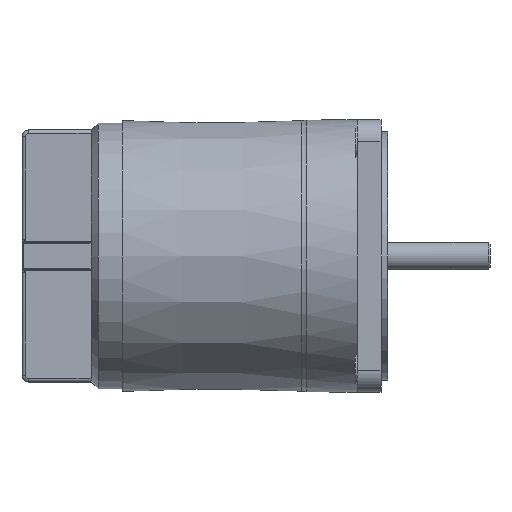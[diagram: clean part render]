
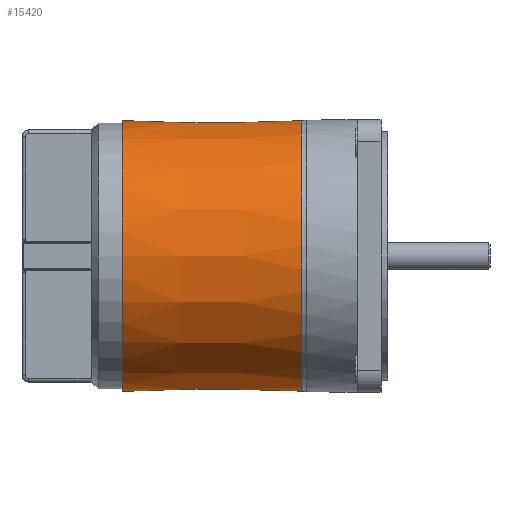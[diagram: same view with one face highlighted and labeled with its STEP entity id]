
A CAD part, front view. The second image highlights one B-rep face of the part: STEP entity #15420.
In plain terms, the highlighted conical face has half-angle 0.073 degrees and reference radius 39.784 mm.
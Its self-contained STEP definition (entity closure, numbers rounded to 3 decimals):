
#23=(
BOUNDED_CURVE()
B_SPLINE_CURVE(2,(#25382,#25383,#25384),.UNSPECIFIED.,.F.,.F.)
B_SPLINE_CURVE_WITH_KNOTS((3,3),(0.114,3.908),
 .UNSPECIFIED.)
CURVE()
GEOMETRIC_REPRESENTATION_ITEM()
RATIONAL_B_SPLINE_CURVE((1.,1.,1.))
REPRESENTATION_ITEM('')
);
#93=B_SPLINE_CURVE_WITH_KNOTS('',3,(#25319,#25320,#25321,#25322,#25323,
#25324,#25325,#25326,#25327,#25328,#25329,#25330),.UNSPECIFIED.,.F.,.F.,
(4,2,2,2,2,4),(-0.001,0.,0.027,0.048,
0.073,0.103),.UNSPECIFIED.);
#106=B_SPLINE_CURVE_WITH_KNOTS('',3,(#25554,#25555,#25556,#25557),
 .UNSPECIFIED.,.F.,.F.,(4,4),(5.75,5.8),
 .UNSPECIFIED.);
#107=B_SPLINE_CURVE_WITH_KNOTS('',3,(#25559,#25560,#25561,#25562),
 .UNSPECIFIED.,.F.,.F.,(4,4),(-5.75,-1.842),
 .UNSPECIFIED.);
#333=FACE_BOUND('',#2989,.T.);
#382=CONICAL_SURFACE('',#16763,39.784,0.073);
#1224=CIRCLE('',#16737,39.767);
#1234=CIRCLE('',#16759,39.817);
#1235=CIRCLE('',#16761,39.817);
#1237=CIRCLE('',#16764,39.75);
#2031=FACE_OUTER_BOUND('',#2988,.T.);
#2988=EDGE_LOOP('',(#12403,#12404,#12405,#12406,#12407,#12408,#12409));
#2989=EDGE_LOOP('',(#12410));
#6813=VERTEX_POINT('',#25317);
#6814=VERTEX_POINT('',#25318);
#6815=VERTEX_POINT('',#25343);
#6821=VERTEX_POINT('',#25375);
#6833=VERTEX_POINT('',#25553);
#6834=VERTEX_POINT('',#25558);
#6841=VERTEX_POINT('',#25665);
#6843=VERTEX_POINT('',#25680);
#8708=EDGE_CURVE('',#6813,#6814,#93,.T.);
#8711=EDGE_CURVE('',#6813,#6815,#1224,.T.);
#8720=EDGE_CURVE('',#6814,#6821,#23,.T.);
#8739=EDGE_CURVE('',#6833,#6815,#106,.T.);
#8740=EDGE_CURVE('',#6833,#6834,#107,.T.);
#8755=EDGE_CURVE('',#6834,#6841,#1234,.T.);
#8758=EDGE_CURVE('',#6841,#6821,#1235,.T.);
#8760=EDGE_CURVE('',#6843,#6843,#1237,.T.);
#12403=ORIENTED_EDGE('',*,*,#8708,.T.);
#12404=ORIENTED_EDGE('',*,*,#8720,.T.);
#12405=ORIENTED_EDGE('',*,*,#8758,.F.);
#12406=ORIENTED_EDGE('',*,*,#8755,.F.);
#12407=ORIENTED_EDGE('',*,*,#8740,.F.);
#12408=ORIENTED_EDGE('',*,*,#8739,.T.);
#12409=ORIENTED_EDGE('',*,*,#8711,.F.);
#12410=ORIENTED_EDGE('',*,*,#8760,.T.);
#15420=ADVANCED_FACE('',(#2031,#333),#382,.T.);
#16737=AXIS2_PLACEMENT_3D('',#25344,#20265,#20266);
#16759=AXIS2_PLACEMENT_3D('',#25666,#20325,#20326);
#16761=AXIS2_PLACEMENT_3D('',#25677,#20329,#20330);
#16763=AXIS2_PLACEMENT_3D('',#25679,#20333,#20334);
#16764=AXIS2_PLACEMENT_3D('',#25681,#20335,#20336);
#20265=DIRECTION('center_axis',(1.,0.,0.));
#20266=DIRECTION('ref_axis',(0.,1.,0.01));
#20325=DIRECTION('center_axis',(1.,0.,0.));
#20326=DIRECTION('ref_axis',(0.,1.,0.));
#20329=DIRECTION('center_axis',(1.,0.,0.));
#20330=DIRECTION('ref_axis',(0.,1.,0.));
#20333=DIRECTION('center_axis',(1.,0.,0.));
#20334=DIRECTION('ref_axis',(0.,1.,0.));
#20335=DIRECTION('center_axis',(1.,0.,0.));
#20336=DIRECTION('ref_axis',(0.,1.,0.));
#25317=CARTESIAN_POINT('',(22.001,28.641,-27.587));
#25318=CARTESIAN_POINT('',(23.636,28.041,-28.2));
#25319=CARTESIAN_POINT('Ctrl Pts',(22.001,28.641,-27.587));
#25320=CARTESIAN_POINT('Ctrl Pts',(22.002,28.64,-27.589));
#25321=CARTESIAN_POINT('Ctrl Pts',(22.003,28.638,-27.59));
#25322=CARTESIAN_POINT('Ctrl Pts',(22.044,28.581,-27.65));
#25323=CARTESIAN_POINT('Ctrl Pts',(22.115,28.498,-27.736));
#25324=CARTESIAN_POINT('Ctrl Pts',(22.343,28.338,-27.9));
#25325=CARTESIAN_POINT('Ctrl Pts',(22.457,28.278,-27.96));
#25326=CARTESIAN_POINT('Ctrl Pts',(22.724,28.17,-28.07));
#25327=CARTESIAN_POINT('Ctrl Pts',(22.88,28.126,-28.114));
#25328=CARTESIAN_POINT('Ctrl Pts',(23.234,28.058,-28.182));
#25329=CARTESIAN_POINT('Ctrl Pts',(23.435,28.041,-28.2));
#25330=CARTESIAN_POINT('Ctrl Pts',(23.636,28.041,-28.2));
#25343=CARTESIAN_POINT('',(22.001,27.47,28.754));
#25344=CARTESIAN_POINT('Origin',(22.001,0.,
0.));
#25375=CARTESIAN_POINT('',(61.576,28.11,-28.2));
#25382=CARTESIAN_POINT('Ctrl Pts',(23.636,28.041,-28.2));
#25383=CARTESIAN_POINT('Ctrl Pts',(42.583,28.076,-28.2));
#25384=CARTESIAN_POINT('Ctrl Pts',(61.576,28.11,-28.2));
#25553=CARTESIAN_POINT('',(22.5,27.471,28.754));
#25554=CARTESIAN_POINT('Ctrl Pts',(22.5,27.471,28.754));
#25555=CARTESIAN_POINT('Ctrl Pts',(22.334,27.471,28.754));
#25556=CARTESIAN_POINT('Ctrl Pts',(22.167,27.47,28.754));
#25557=CARTESIAN_POINT('Ctrl Pts',(22.001,27.47,28.754));
#25558=CARTESIAN_POINT('',(61.576,27.542,28.756));
#25559=CARTESIAN_POINT('Ctrl Pts',(22.5,27.471,28.754));
#25560=CARTESIAN_POINT('Ctrl Pts',(35.525,27.495,28.754));
#25561=CARTESIAN_POINT('Ctrl Pts',(48.55,27.518,28.755));
#25562=CARTESIAN_POINT('Ctrl Pts',(61.576,27.542,28.756));
#25665=CARTESIAN_POINT('',(61.576,27.541,28.756));
#25666=CARTESIAN_POINT('Origin',(61.576,0.,
0.));
#25677=CARTESIAN_POINT('Origin',(61.576,0.,
0.));
#25679=CARTESIAN_POINT('Origin',(35.288,0.,
0.));
#25680=CARTESIAN_POINT('',(9.,39.75,0.));
#25681=CARTESIAN_POINT('Origin',(9.,0.,
0.));
